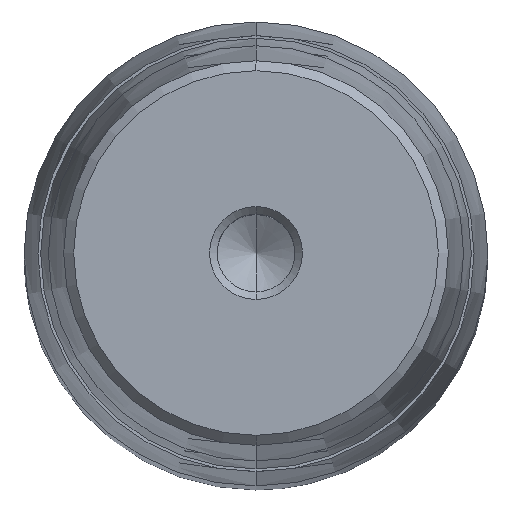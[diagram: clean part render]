
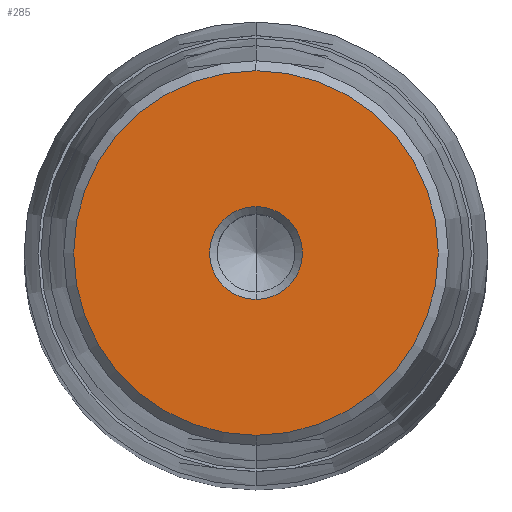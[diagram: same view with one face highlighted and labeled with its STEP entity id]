
A CAD part, top view. The second image highlights one B-rep face of the part: STEP entity #285.
In plain terms, the highlighted planar face has unit normal (0, 0, 1).
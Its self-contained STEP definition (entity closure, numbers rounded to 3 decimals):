
#164=CARTESIAN_POINT('Axis2P3D Location',(0.,0.,58.)) ;
#168=CARTESIAN_POINT('Vertex',(5.,0.,58.)) ;
#170=CARTESIAN_POINT('Vertex',(0.,-5.,58.)) ;
#173=CARTESIAN_POINT('Axis2P3D Location',(0.,0.,58.)) ;
#177=CARTESIAN_POINT('Vertex',(0.,5.,58.)) ;
#228=CARTESIAN_POINT('Axis2P3D Location',(0.,5.,58.)) ;
#233=CARTESIAN_POINT('Axis2P3D Location',(0.,0.,58.)) ;
#237=CARTESIAN_POINT('Vertex',(0.,19.65,58.)) ;
#239=CARTESIAN_POINT('Vertex',(19.65,0.,58.)) ;
#242=CARTESIAN_POINT('Axis2P3D Location',(0.,0.,58.)) ;
#246=CARTESIAN_POINT('Vertex',(-19.65,0.,58.)) ;
#249=CARTESIAN_POINT('Axis2P3D Location',(0.,0.,58.)) ;
#253=CARTESIAN_POINT('Vertex',(0.,-19.65,58.)) ;
#256=CARTESIAN_POINT('Axis2P3D Location',(0.,0.,58.)) ;
#267=CARTESIAN_POINT('Axis2P3D Location',(0.,0.,58.)) ;
#271=CARTESIAN_POINT('Vertex',(-5.,0.,58.)) ;
#274=CARTESIAN_POINT('Axis2P3D Location',(0.,0.,58.)) ;
#165=DIRECTION('Axis2P3D Direction',(0.,0.,1.)) ;
#174=DIRECTION('Axis2P3D Direction',(0.,0.,1.)) ;
#229=DIRECTION('Axis2P3D Direction',(-0.,0.,-1.)) ;
#230=DIRECTION('Axis2P3D XDirection',(0.,1.,0.)) ;
#234=DIRECTION('Axis2P3D Direction',(-0.,0.,-1.)) ;
#243=DIRECTION('Axis2P3D Direction',(-0.,0.,-1.)) ;
#250=DIRECTION('Axis2P3D Direction',(-0.,0.,-1.)) ;
#257=DIRECTION('Axis2P3D Direction',(-0.,0.,-1.)) ;
#268=DIRECTION('Axis2P3D Direction',(-0.,0.,-1.)) ;
#275=DIRECTION('Axis2P3D Direction',(-0.,0.,-1.)) ;
#166=AXIS2_PLACEMENT_3D('Circle Axis2P3D',#164,#165,$) ;
#175=AXIS2_PLACEMENT_3D('Circle Axis2P3D',#173,#174,$) ;
#231=AXIS2_PLACEMENT_3D('Plane Axis2P3D',#228,#229,#230) ;
#235=AXIS2_PLACEMENT_3D('Circle Axis2P3D',#233,#234,$) ;
#244=AXIS2_PLACEMENT_3D('Circle Axis2P3D',#242,#243,$) ;
#251=AXIS2_PLACEMENT_3D('Circle Axis2P3D',#249,#250,$) ;
#258=AXIS2_PLACEMENT_3D('Circle Axis2P3D',#256,#257,$) ;
#269=AXIS2_PLACEMENT_3D('Circle Axis2P3D',#267,#268,$) ;
#276=AXIS2_PLACEMENT_3D('Circle Axis2P3D',#274,#275,$) ;
#262=ORIENTED_EDGE('',*,*,#241,.F.) ;
#263=ORIENTED_EDGE('',*,*,#248,.F.) ;
#264=ORIENTED_EDGE('',*,*,#255,.F.) ;
#265=ORIENTED_EDGE('',*,*,#260,.F.) ;
#280=ORIENTED_EDGE('',*,*,#172,.T.) ;
#281=ORIENTED_EDGE('',*,*,#273,.T.) ;
#282=ORIENTED_EDGE('',*,*,#278,.T.) ;
#283=ORIENTED_EDGE('',*,*,#179,.T.) ;
#284=FACE_BOUND('',#279,.T.) ;
#285=ADVANCED_FACE('722-50x280x320',(#266,#284),#232,.F.) ;
#167=CIRCLE('generated circle',#166,5.) ;
#176=CIRCLE('generated circle',#175,5.) ;
#236=CIRCLE('generated circle',#235,19.65) ;
#245=CIRCLE('generated circle',#244,19.65) ;
#252=CIRCLE('generated circle',#251,19.65) ;
#259=CIRCLE('generated circle',#258,19.65) ;
#270=CIRCLE('generated circle',#269,5.) ;
#277=CIRCLE('generated circle',#276,5.) ;
#172=EDGE_CURVE('',#169,#171,#167,.F.) ;
#179=EDGE_CURVE('',#178,#169,#176,.F.) ;
#241=EDGE_CURVE('',#238,#240,#236,.T.) ;
#248=EDGE_CURVE('',#247,#238,#245,.T.) ;
#255=EDGE_CURVE('',#254,#247,#252,.T.) ;
#260=EDGE_CURVE('',#240,#254,#259,.T.) ;
#273=EDGE_CURVE('',#171,#272,#270,.T.) ;
#278=EDGE_CURVE('',#272,#178,#277,.T.) ;
#261=EDGE_LOOP('',(#262,#263,#264,#265)) ;
#279=EDGE_LOOP('',(#280,#281,#282,#283)) ;
#266=FACE_OUTER_BOUND('',#261,.T.) ;
#232=PLANE('Plane',#231) ;
#169=VERTEX_POINT('',#168) ;
#171=VERTEX_POINT('',#170) ;
#178=VERTEX_POINT('',#177) ;
#238=VERTEX_POINT('',#237) ;
#240=VERTEX_POINT('',#239) ;
#247=VERTEX_POINT('',#246) ;
#254=VERTEX_POINT('',#253) ;
#272=VERTEX_POINT('',#271) ;
